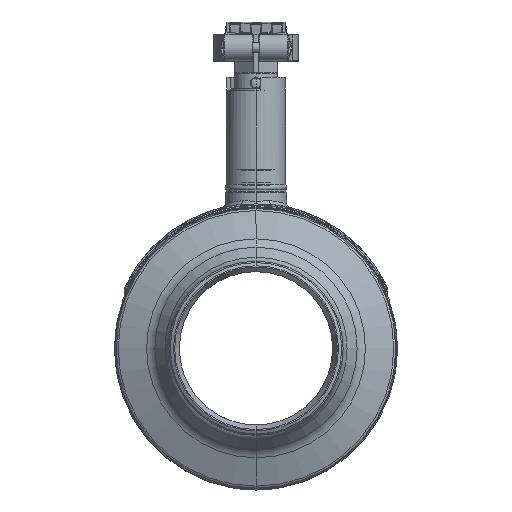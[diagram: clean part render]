
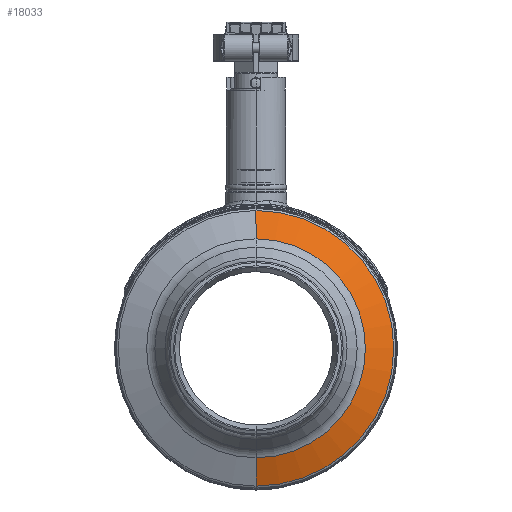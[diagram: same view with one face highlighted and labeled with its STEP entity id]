
A CAD part, left-side view. The second image highlights one B-rep face of the part: STEP entity #18033.
In plain terms, the highlighted conical face has half-angle 68.514 degrees and reference radius 100.767 mm.
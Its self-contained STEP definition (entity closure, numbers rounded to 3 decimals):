
#6211=CARTESIAN_POINT('',(-76.247,0.,0.));
#6212=DIRECTION('',(1.,0.,0.));
#6213=DIRECTION('',(0.,0.,1.));
#6214=AXIS2_PLACEMENT_3D('',#6211,#6212,#6213);
#6216=DIRECTION('',(-0.366,0.,0.931));
#6217=VECTOR('',#6216,24.856);
#6218=CARTESIAN_POINT('',(-76.247,0.,
-112.331));
#6219=LINE('',#6218,#6217);
#6220=CARTESIAN_POINT('',(-85.352,0.,0.));
#6221=DIRECTION('',(1.,0.,0.));
#6222=DIRECTION('',(0.,0.,1.));
#6223=AXIS2_PLACEMENT_3D('',#6220,#6221,#6222);
#6225=DIRECTION('',(-0.366,0.,-0.931));
#6226=VECTOR('',#6225,24.856);
#6227=CARTESIAN_POINT('',(-76.247,0.,112.331));
#6228=LINE('',#6227,#6226);
#7075=CARTESIAN_POINT('',(-85.352,0.,
89.203));
#7076=CARTESIAN_POINT('',(-85.352,0.,
-89.203));
#7077=VERTEX_POINT('',#7075);
#7078=VERTEX_POINT('',#7076);
#7123=CARTESIAN_POINT('',(-76.247,0.,
-112.331));
#7124=CARTESIAN_POINT('',(-76.247,0.,
112.331));
#7125=VERTEX_POINT('',#7123);
#7126=VERTEX_POINT('',#7124);
#18019=CARTESIAN_POINT('',(-80.799,0.,0.));
#18020=DIRECTION('',(1.,0.,0.));
#18021=DIRECTION('',(0.,0.,1.));
#18022=AXIS2_PLACEMENT_3D('',#18019,#18020,#18021);
#18023=CONICAL_SURFACE('',#18022,100.767,68.514);
#18024=ORIENTED_EDGE('',*,*,#18013,.T.);
#18026=ORIENTED_EDGE('',*,*,#18025,.T.);
#18028=ORIENTED_EDGE('',*,*,#18027,.F.);
#18030=ORIENTED_EDGE('',*,*,#18029,.F.);
#18031=EDGE_LOOP('',(#18024,#18026,#18028,#18030));
#18032=FACE_OUTER_BOUND('',#18031,.F.);
#6215=CIRCLE('',#6214,112.331);
#6224=CIRCLE('',#6223,89.203);
#18013=EDGE_CURVE('',#7126,#7125,#6215,.T.);
#18025=EDGE_CURVE('',#7125,#7078,#6219,.T.);
#18027=EDGE_CURVE('',#7077,#7078,#6224,.T.);
#18029=EDGE_CURVE('',#7126,#7077,#6228,.T.);
#18033=ADVANCED_FACE('',(#18032),#18023,.T.);
